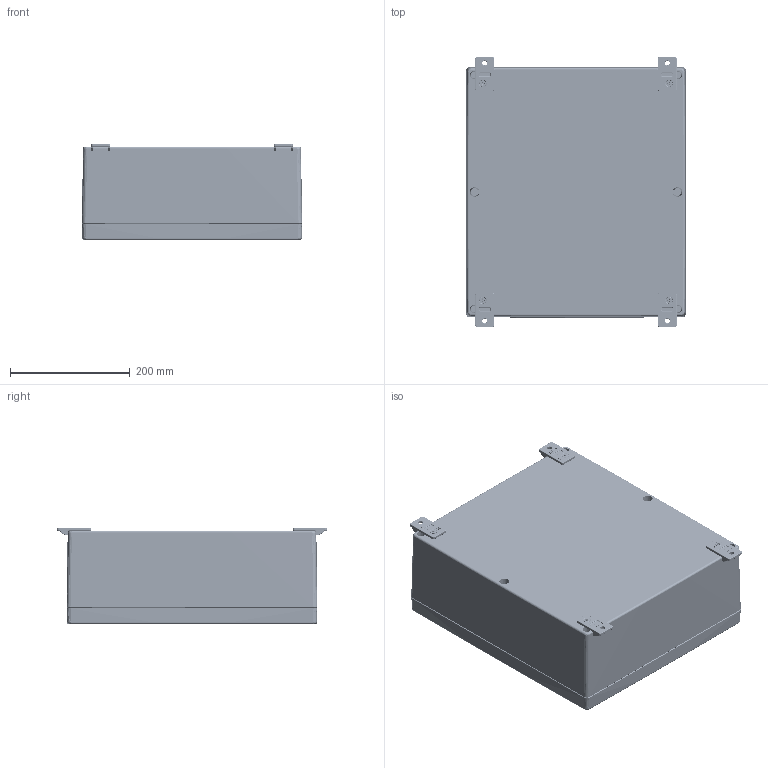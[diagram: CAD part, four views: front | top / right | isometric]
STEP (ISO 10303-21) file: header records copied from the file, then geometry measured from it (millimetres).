
FILE_DESCRIPTION((''),'2;1');
FILE_NAME('C:\Vault_Workspace\Inventor_Dwg\Inv-5\5412ESFR\5412ESFRS161406.stp','2014-12-12T11:01:28',('MichaelA'),(''),'Autodesk Inventor 2012','Autodesk Inventor 2012','');
FILE_SCHEMA(('AUTOMOTIVE_DESIGN { 1 0 10303 214 1 1 1 1 }'));
Length unit declared in the file: inch
Products named in the file (13): 5412ESFRS161406; 5412ESFR161406-B; 5412ESFR161406-B-P; STK-Q-20300; STK-Q-20500; 5412ESFRS1614-C; STK-Q-03060; STK-Q-03200; STK-Q-03500; 880SP1614; 5412ESFR-MFR; 5412ESFR-MFL; 5412ESFR1614-G
Assembly tree (33 placements, depth 3):
  5412ESFRS161406
    5412ESFR161406-B
      5412ESFR161406-B-P
      STK-Q-20300  x4
      STK-Q-20500  x6
    5412ESFRS1614-C
    STK-Q-03060  x4
    STK-Q-03200  x4
    STK-Q-03500  x6
    880SP1614
    5412ESFR-MFR  x2
    5412ESFR-MFL  x2
    5412ESFR1614-G
Bounding box: 368.3 x 450.85 x 160.38 mm (x, y, z)
Volume: 3012931.6 mm3; surface area: 1430162.1 mm2
Topology: 26 solids, 32 shells, 7357 faces, 19237 edges, 12062 vertices
Faces by surface type: plane 4033, cylinder 1681, bspline 767, torus 508, cone 256, sphere 112
Full cylindrical faces by diameter (mm): 2.1 x216, 4.35 x6, 4.928 x6, 5.1 x48, 6.35 x4, 7.925 x4, 8 x4, 8.128 x4, 10 x4, 10.5 x6, 10.668 x6, 11 x12, 13 x22
Entity records: 99671 total; most frequent: CARTESIAN_POINT 32419, ORIENTED_EDGE 14072, DIRECTION 13346, EDGE_CURVE 7036, AXIS2_PLACEMENT_3D 4551, VERTEX_POINT 4465, VECTOR 4244, LINE 4244
